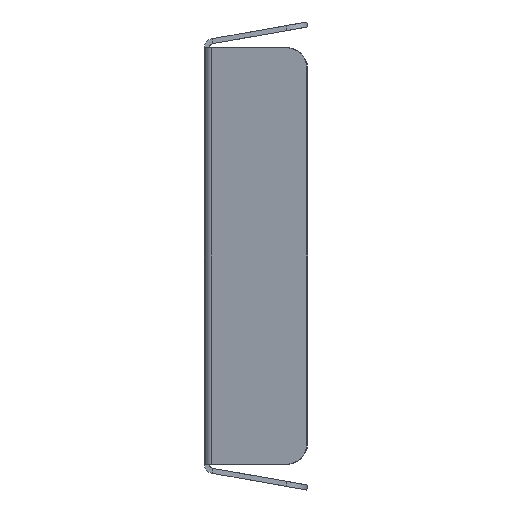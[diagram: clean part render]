
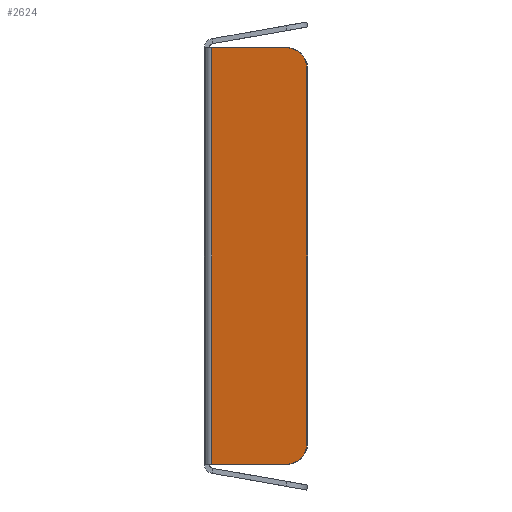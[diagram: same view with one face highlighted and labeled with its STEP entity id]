
A CAD part, left-side view. The second image highlights one B-rep face of the part: STEP entity #2624.
In plain terms, the highlighted planar face has unit normal (-0.985, 0.174, 0).
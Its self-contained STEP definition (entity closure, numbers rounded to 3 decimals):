
#24 = AXIS2_PLACEMENT_3D ( 'NONE', #1421, #4803, #3268 ) ;
#54 = VERTEX_POINT ( 'NONE', #3614 ) ;
#105 = LINE ( 'NONE', #2857, #226 ) ;
#226 = VECTOR ( 'NONE', #3631, 1000. ) ;
#259 = VECTOR ( 'NONE', #291, 1000. ) ;
#261 = CARTESIAN_POINT ( 'NONE',  ( -6.187, -23.42, -5. ) ) ;
#291 = DIRECTION ( 'NONE',  ( 0., 0., 1. ) ) ;
#417 = DIRECTION ( 'NONE',  ( 0., 0., 1. ) ) ;
#469 = ORIENTED_EDGE ( 'NONE', *, *, #740, .F. ) ;
#521 = CARTESIAN_POINT ( 'NONE',  ( -2.021, 0.208, -100. ) ) ;
#740 = EDGE_CURVE ( 'NONE', #1535, #3697, #2300, .T. ) ;
#773 = VECTOR ( 'NONE', #2091, 1000. ) ;
#836 = LINE ( 'NONE', #1113, #4348 ) ;
#1087 = ORIENTED_EDGE ( 'NONE', *, *, #1426, .T. ) ;
#1113 = CARTESIAN_POINT ( 'NONE',  ( -6.187, -23.42, 0. ) ) ;
#1226 = DIRECTION ( 'NONE',  ( 0.174, 0.985, 0. ) ) ;
#1227 = CIRCLE ( 'NONE', #2563, 5. ) ;
#1342 = ORIENTED_EDGE ( 'NONE', *, *, #1900, .T. ) ;
#1343 = CARTESIAN_POINT ( 'NONE',  ( -2.167, -0.618, 0. ) ) ;
#1421 = CARTESIAN_POINT ( 'NONE',  ( -2.021, 0.208, 0. ) ) ;
#1426 = EDGE_CURVE ( 'NONE', #4671, #1803, #836, .T. ) ;
#1438 = CARTESIAN_POINT ( 'NONE',  ( -6.187, -23.42, -95. ) ) ;
#1507 = EDGE_CURVE ( 'NONE', #1535, #54, #3874, .T. ) ;
#1535 = VERTEX_POINT ( 'NONE', #4763 ) ;
#1803 = VERTEX_POINT ( 'NONE', #261 ) ;
#1900 = EDGE_CURVE ( 'NONE', #54, #4671, #4590, .T. ) ;
#2091 = DIRECTION ( 'NONE',  ( -0.174, -0.985, 0. ) ) ;
#2093 = DIRECTION ( 'NONE',  ( -0.985, 0.174, 0. ) ) ;
#2269 = DIRECTION ( 'NONE',  ( -0.985, 0.174, 0. ) ) ;
#2300 = LINE ( 'NONE', #3712, #259 ) ;
#2563 = AXIS2_PLACEMENT_3D ( 'NONE', #3588, #2093, #3282 ) ;
#2624 = ADVANCED_FACE ( 'NONE', ( #3619 ), #4427, .F. ) ;
#2747 = EDGE_LOOP ( 'NONE', ( #1087, #4497, #2945, #469, #3841, #1342 ) ) ;
#2810 = VERTEX_POINT ( 'NONE', #4188 ) ;
#2857 = CARTESIAN_POINT ( 'NONE',  ( -2.021, 0.208, 0. ) ) ;
#2945 = ORIENTED_EDGE ( 'NONE', *, *, #3115, .T. ) ;
#2974 = AXIS2_PLACEMENT_3D ( 'NONE', #4529, #2269, #1226 ) ;
#3115 = EDGE_CURVE ( 'NONE', #2810, #3697, #105, .T. ) ;
#3268 = DIRECTION ( 'NONE',  ( 0.174, 0.985, 0. ) ) ;
#3282 = DIRECTION ( 'NONE',  ( 0.174, 0.985, 0. ) ) ;
#3588 = CARTESIAN_POINT ( 'NONE',  ( -5.319, -18.496, -5. ) ) ;
#3614 = CARTESIAN_POINT ( 'NONE',  ( -5.319, -18.496, -100. ) ) ;
#3619 = FACE_OUTER_BOUND ( 'NONE', #2747, .T. ) ;
#3631 = DIRECTION ( 'NONE',  ( 0.174, 0.985, 0. ) ) ;
#3687 = EDGE_CURVE ( 'NONE', #1803, #2810, #1227, .T. ) ;
#3697 = VERTEX_POINT ( 'NONE', #1343 ) ;
#3712 = CARTESIAN_POINT ( 'NONE',  ( -2.167, -0.618, 0. ) ) ;
#3841 = ORIENTED_EDGE ( 'NONE', *, *, #1507, .T. ) ;
#3874 = LINE ( 'NONE', #521, #773 ) ;
#4188 = CARTESIAN_POINT ( 'NONE',  ( -5.319, -18.496, 0. ) ) ;
#4348 = VECTOR ( 'NONE', #417, 1000. ) ;
#4427 = PLANE ( 'NONE',  #24 ) ;
#4497 = ORIENTED_EDGE ( 'NONE', *, *, #3687, .T. ) ;
#4529 = CARTESIAN_POINT ( 'NONE',  ( -5.319, -18.496, -95. ) ) ;
#4590 = CIRCLE ( 'NONE', #2974, 5. ) ;
#4671 = VERTEX_POINT ( 'NONE', #1438 ) ;
#4763 = CARTESIAN_POINT ( 'NONE',  ( -2.167, -0.618, -100. ) ) ;
#4803 = DIRECTION ( 'NONE',  ( 0.985, -0.174, 0. ) ) ;
